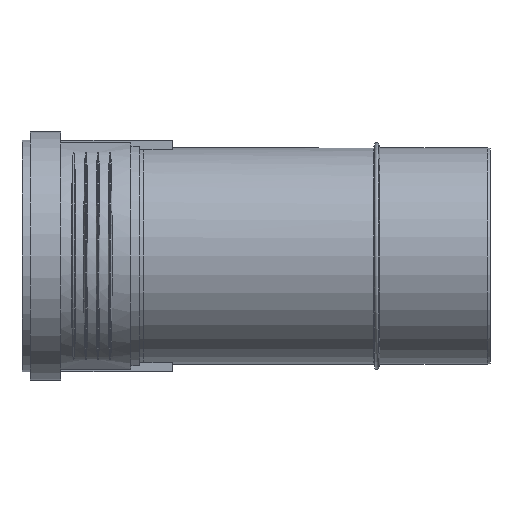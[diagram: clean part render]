
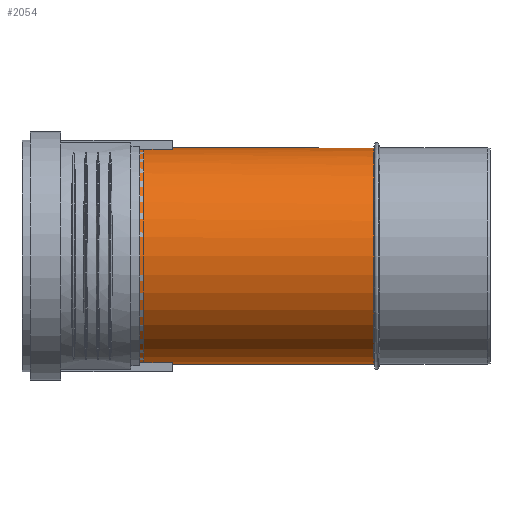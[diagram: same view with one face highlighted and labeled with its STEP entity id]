
A CAD part, left-side view. The second image highlights one B-rep face of the part: STEP entity #2054.
In plain terms, the highlighted cylindrical face has radius 80.125 mm (diameter 160.25 mm), a full revolution.
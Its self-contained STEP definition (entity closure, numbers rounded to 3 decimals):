
#265=CYLINDRICAL_SURFACE($,#2201,80.125);
#431=FACE_BOUND($,#729,.T.);
#492=B_SPLINE_CURVE_WITH_KNOTS($,3,(#3089,#3090,#3091,#3092,#3093,#3094,
#3095,#3096,#3097,#3098,#3099,#3100,#3101,#3102,#3103,#3104,#3105,#3106,
#3107,#3108,#3109,#3110,#3111,#3112,#3113,#3114,#3115,#3116,#3117,#3118,
#3119,#3120,#3121,#3122,#3123,#3124,#3125,#3126,#3127,#3128,#3129,#3130,
#3131,#3132,#3133,#3134,#3135,#3136,#3137,#3138,#3139,#3140,#3141,#3142,
#3143,#3144,#3145,#3146,#3147,#3148,#3149,#3150,#3151,#3152,#3153,#3154,
#3155,#3156,#3157,#3158,#3159,#3160,#3161,#3162,#3163,#3164,#3165,#3166,
#3167,#3168,#3169,#3170,#3171),.UNSPECIFIED.,.F.,.F.,(4,2,2,2,2,2,2,2,2,
2,2,2,2,2,2,2,2,2,2,2,2,2,2,2,2,2,2,2,2,2,3,2,2,2,2,2,2,2,2,2,4),(-32.557,
-32.198,-31.433,-30.669,-29.14,
-27.982,-26.823,-24.507,-22.297,
-21.192,-20.087,-18.777,-18.122,
-17.467,-16.812,-16.157,-14.846,
-13.646,-12.445,-11.244,-10.044,
-8.843,-7.642,-6.442,-5.241,
-3.931,-3.276,-2.621,-1.965,
-1.31,0.,1.105,2.21,
4.419,6.736,7.894,9.052,10.581,
11.346,12.11,12.47),.UNSPECIFIED.);
#600=FACE_OUTER_BOUND($,#728,.T.);
#728=EDGE_LOOP($,(#1504));
#729=EDGE_LOOP($,(#1505,#1506));
#899=CIRCLE($,#2188,80.125);
#905=CIRCLE($,#2200,80.125);
#999=VERTEX_POINT($,#3055);
#1005=VERTEX_POINT($,#3071);
#1006=VERTEX_POINT($,#3078);
#1207=EDGE_CURVE($,#999,#999,#899,.T.);
#1216=EDGE_CURVE($,#1006,#1005,#905,.T.);
#1217=EDGE_CURVE($,#1005,#1006,#492,.T.);
#1504=ORIENTED_EDGE($,*,*,#1207,.T.);
#1505=ORIENTED_EDGE($,*,*,#1216,.T.);
#1506=ORIENTED_EDGE($,*,*,#1217,.T.);
#2054=ADVANCED_FACE($,(#600,#431),#265,.T.);
#2188=AXIS2_PLACEMENT_3D($,#3056,#2436,#2437);
#2200=AXIS2_PLACEMENT_3D($,#3087,#2460,#2461);
#2201=AXIS2_PLACEMENT_3D($,#3088,#2462,#2463);
#2436=DIRECTION('center_axis',(0.,1.,0.));
#2437=DIRECTION('ref_axis',(1.,0.,0.));
#2460=DIRECTION('center_axis',(0.,-1.,0.));
#2461=DIRECTION('ref_axis',(1.,0.,0.));
#2462=DIRECTION('center_axis',(0.,1.,0.));
#2463=DIRECTION('ref_axis',(1.,0.,0.));
#3055=CARTESIAN_POINT('',(-80.125,86.1,0.));
#3056=CARTESIAN_POINT('Origin',(0.,86.1,0.));
#3071=CARTESIAN_POINT('',(78.723,259.45,-14.924));
#3078=CARTESIAN_POINT('',(78.723,259.45,14.924));
#3087=CARTESIAN_POINT('Origin',(0.,259.45,0.));
#3088=CARTESIAN_POINT('Origin',(0.,0.,0.));
#3089=CARTESIAN_POINT('Ctrl Pts',(78.723,259.45,-14.924));
#3090=CARTESIAN_POINT('Ctrl Pts',(78.515,258.861,-16.021));
#3091=CARTESIAN_POINT('Ctrl Pts',(78.293,258.231,-17.067));
#3092=CARTESIAN_POINT('Ctrl Pts',(77.582,256.211,-20.141));
#3093=CARTESIAN_POINT('Ctrl Pts',(77.021,254.613,-22.179));
#3094=CARTESIAN_POINT('Ctrl Pts',(75.791,251.08,-26.076));
#3095=CARTESIAN_POINT('Ctrl Pts',(75.121,249.147,-27.935));
#3096=CARTESIAN_POINT('Ctrl Pts',(73.029,243.058,-33.182));
#3097=CARTESIAN_POINT('Ctrl Pts',(71.523,238.61,-36.232));
#3098=CARTESIAN_POINT('Ctrl Pts',(69.074,231.22,-40.664));
#3099=CARTESIAN_POINT('Ctrl Pts',(67.956,227.797,-42.501));
#3100=CARTESIAN_POINT('Ctrl Pts',(65.672,220.643,-45.95));
#3101=CARTESIAN_POINT('Ctrl Pts',(64.507,216.914,-47.564));
#3102=CARTESIAN_POINT('Ctrl Pts',(61.066,205.547,-52.009));
#3103=CARTESIAN_POINT('Ctrl Pts',(58.851,197.724,-54.438));
#3104=CARTESIAN_POINT('Ctrl Pts',(55.254,183.532,-58.08));
#3105=CARTESIAN_POINT('Ctrl Pts',(53.491,175.796,-59.68));
#3106=CARTESIAN_POINT('Ctrl Pts',(51.517,164.021,-61.374));
#3107=CARTESIAN_POINT('Ctrl Pts',(50.972,160.067,-61.824));
#3108=CARTESIAN_POINT('Ctrl Pts',(50.219,152.279,-62.437));
#3109=CARTESIAN_POINT('Ctrl Pts',(50.013,148.445,-62.6));
#3110=CARTESIAN_POINT('Ctrl Pts',(50.013,140.395,-62.6));
#3111=CARTESIAN_POINT('Ctrl Pts',(50.307,135.85,-62.371));
#3112=CARTESIAN_POINT('Ctrl Pts',(51.4,129.187,-61.468));
#3113=CARTESIAN_POINT('Ctrl Pts',(51.871,126.991,-61.074));
#3114=CARTESIAN_POINT('Ctrl Pts',(53.028,122.716,-60.072));
#3115=CARTESIAN_POINT('Ctrl Pts',(53.714,120.636,-59.464));
#3116=CARTESIAN_POINT('Ctrl Pts',(55.272,116.646,-58.019));
#3117=CARTESIAN_POINT('Ctrl Pts',(56.145,114.73,-57.18));
#3118=CARTESIAN_POINT('Ctrl Pts',(58.027,111.092,-55.269));
#3119=CARTESIAN_POINT('Ctrl Pts',(59.035,109.37,-54.197));
#3120=CARTESIAN_POINT('Ctrl Pts',(62.154,104.527,-50.663));
#3121=CARTESIAN_POINT('Ctrl Pts',(64.357,101.73,-47.872));
#3122=CARTESIAN_POINT('Ctrl Pts',(68.295,97.202,-42.037));
#3123=CARTESIAN_POINT('Ctrl Pts',(70.167,95.277,-38.876));
#3124=CARTESIAN_POINT('Ctrl Pts',(73.568,91.98,-31.977));
#3125=CARTESIAN_POINT('Ctrl Pts',(75.096,90.608,-28.239));
#3126=CARTESIAN_POINT('Ctrl Pts',(77.585,88.438,-20.429));
#3127=CARTESIAN_POINT('Ctrl Pts',(78.549,87.637,-16.35));
#3128=CARTESIAN_POINT('Ctrl Pts',(79.819,86.591,-8.137));
#3129=CARTESIAN_POINT('Ctrl Pts',(80.125,86.345,-4.002));
#3130=CARTESIAN_POINT('Ctrl Pts',(80.125,86.345,4.002));
#3131=CARTESIAN_POINT('Ctrl Pts',(79.819,86.591,8.137));
#3132=CARTESIAN_POINT('Ctrl Pts',(78.549,87.637,16.35));
#3133=CARTESIAN_POINT('Ctrl Pts',(77.585,88.438,20.429));
#3134=CARTESIAN_POINT('Ctrl Pts',(75.096,90.608,28.239));
#3135=CARTESIAN_POINT('Ctrl Pts',(73.568,91.98,31.977));
#3136=CARTESIAN_POINT('Ctrl Pts',(70.167,95.277,38.876));
#3137=CARTESIAN_POINT('Ctrl Pts',(68.295,97.202,42.037));
#3138=CARTESIAN_POINT('Ctrl Pts',(64.357,101.73,47.872));
#3139=CARTESIAN_POINT('Ctrl Pts',(62.154,104.527,50.663));
#3140=CARTESIAN_POINT('Ctrl Pts',(59.035,109.37,54.197));
#3141=CARTESIAN_POINT('Ctrl Pts',(58.027,111.092,55.269));
#3142=CARTESIAN_POINT('Ctrl Pts',(56.145,114.73,57.18));
#3143=CARTESIAN_POINT('Ctrl Pts',(55.272,116.646,58.019));
#3144=CARTESIAN_POINT('Ctrl Pts',(53.714,120.636,59.464));
#3145=CARTESIAN_POINT('Ctrl Pts',(53.028,122.716,60.072));
#3146=CARTESIAN_POINT('Ctrl Pts',(51.871,126.991,61.074));
#3147=CARTESIAN_POINT('Ctrl Pts',(51.4,129.187,61.468));
#3148=CARTESIAN_POINT('Ctrl Pts',(50.307,135.85,62.371));
#3149=CARTESIAN_POINT('Ctrl Pts',(50.013,140.395,62.6));
#3150=CARTESIAN_POINT('Ctrl Pts',(50.013,144.763,62.6));
#3151=CARTESIAN_POINT('Ctrl Pts',(50.013,148.445,62.6));
#3152=CARTESIAN_POINT('Ctrl Pts',(50.219,152.279,62.437));
#3153=CARTESIAN_POINT('Ctrl Pts',(50.972,160.067,61.824));
#3154=CARTESIAN_POINT('Ctrl Pts',(51.517,164.021,61.374));
#3155=CARTESIAN_POINT('Ctrl Pts',(53.491,175.796,59.68));
#3156=CARTESIAN_POINT('Ctrl Pts',(55.254,183.532,58.08));
#3157=CARTESIAN_POINT('Ctrl Pts',(58.851,197.724,54.438));
#3158=CARTESIAN_POINT('Ctrl Pts',(61.066,205.547,52.009));
#3159=CARTESIAN_POINT('Ctrl Pts',(64.507,216.914,47.564));
#3160=CARTESIAN_POINT('Ctrl Pts',(65.672,220.643,45.95));
#3161=CARTESIAN_POINT('Ctrl Pts',(67.956,227.797,42.501));
#3162=CARTESIAN_POINT('Ctrl Pts',(69.074,231.22,40.664));
#3163=CARTESIAN_POINT('Ctrl Pts',(71.523,238.61,36.232));
#3164=CARTESIAN_POINT('Ctrl Pts',(73.029,243.058,33.182));
#3165=CARTESIAN_POINT('Ctrl Pts',(75.121,249.147,27.935));
#3166=CARTESIAN_POINT('Ctrl Pts',(75.791,251.08,26.076));
#3167=CARTESIAN_POINT('Ctrl Pts',(77.021,254.613,22.179));
#3168=CARTESIAN_POINT('Ctrl Pts',(77.582,256.211,20.141));
#3169=CARTESIAN_POINT('Ctrl Pts',(78.293,258.231,17.067));
#3170=CARTESIAN_POINT('Ctrl Pts',(78.515,258.861,16.021));
#3171=CARTESIAN_POINT('Ctrl Pts',(78.723,259.45,14.924));
